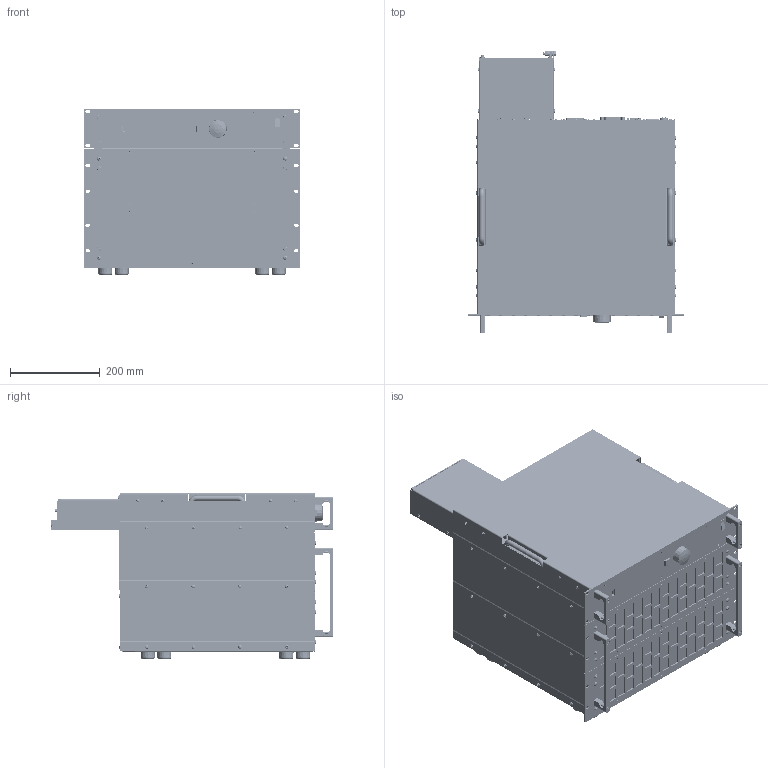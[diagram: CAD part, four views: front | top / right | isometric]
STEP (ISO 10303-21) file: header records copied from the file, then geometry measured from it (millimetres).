
FILE_DESCRIPTION(('STEP AP214'),'1');
FILE_NAME('QL_M23_19Z_8HE_FKS25_10_SM10_3D_01.step','2022-03-16T09:34:45',(' '),(' '),'Spatial InterOp 3D',' ',' ');
FILE_SCHEMA(('AUTOMOTIVE_DESIGN { 1 0 10303 214 1 1 1 1 }'));
Length unit declared in the file: millimetre
Products named in the file (55): DIN 7985-AxM4 X 0.7x5; 3HE_Leistungsteil_mit_Gummifüssen_3D_01; *U404; *U405; *U406; *U415; AutoCreatedBlock_4631; 3HE_Leistungsteil_3D_01; *U519; *U520; *U521; AutoCreatedBlock_4657; DIN 966-A; Steuereinheit_CU25X10_mit_BG452_3D_01; 2121_Steuerteil_modular_Seitenteil_links_3D_02; 2122_Steuerteil_modular_Seitenteil_rechts_3D_02; A$C5EF2ED09; 3xM2.5_5x5x12; AutoCreatedBlock_4677; A$C6092449D; Frontplatte_5HE_Steuerteil_mit_Einbauten_3D; A$C60925E47; A$C60A76697; 2246_QL Rückwand Steuerteil 5HE_mit_Einbauten_3D_01; *U305; *U306; *U307; AutoCreatedBlock_4689; 2257_QL_IO Panel Standard_3D_01; 2084_IO-Port Abdeckung_3D_01; *U614; *U615; *U616; *U617; *U618; *U619; Eingansschienen_CU25X10_3D; *U620; SAB_QL-5; *U285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
Assembly tree (186 placements, depth 4):
  (unnamed)
    DIN 7985-AxM4 X 0.7x5  x4
    3HE_Leistungsteil_mit_Gummifüssen_3D_01
      *U404  x10
      *U405  x6
      *U406  x6
      *U415  x6
      AutoCreatedBlock_4631
    3HE_Leistungsteil_3D_01
      *U519  x14
      *U520  x6
      *U521  x6
      AutoCreatedBlock_4657
    DIN 966-A  x5
    Steuereinheit_CU25X10_mit_BG452_3D_01
      2121_Steuerteil_modular_Seitenteil_links_3D_02
      2122_Steuerteil_modular_Seitenteil_rechts_3D_02
      A$C5EF2ED09
        3xM2.5_5x5x12  x2
        AutoCreatedBlock_4677
      A$C6092449D
      Frontplatte_5HE_Steuerteil_mit_Einbauten_3D
      A$C60925E47
      A$C60A76697
      2246_QL Rückwand Steuerteil 5HE_mit_Einbauten_3D_01
        *U305
        *U306  x2
        *U307  x3
        AutoCreatedBlock_4689
      2257_QL_IO Panel Standard_3D_01
      2084_IO-Port Abdeckung_3D_01  x2
      *U614  x17
      *U615  x9
      *U616  x2
      *U617  x4
      *U618  x2
      *U619  x2
      Eingansschienen_CU25X10_3D
      *U620  x26
      SAB_QL-5
        *U285
        *U286  x2
        *U287  x3
        *U288  x2
        *U289  x8
        *U290  x4
        *U291  x2
        *U292  x2
        AutoCreatedBlock_4717
      *U629  x2
      BG452_mit_MT1955_3D_01
        *U564  x2
        AutoCreatedBlock_4737
      AutoCreatedBlock_4667
    AutoCreatedBlock_4625
Bounding box: 482.61 x 630.75 x 371.22 mm (x, y, z)
Volume: 32003067.4 mm3; surface area: 4887238.5 mm2
Topology: 461 solids, 903 shells, 29854 faces, 74671 edges, 46844 vertices
Faces by surface type: plane 12521, cone 11791, cylinder 4520, torus 443, sphere 294, bspline 269, extrusion 16
Entity records: 902631 total; most frequent: CARTESIAN_POINT 161931, DIRECTION 119764, ORIENTED_EDGE 111170, EDGE_CURVE 57002, AXIS2_PLACEMENT_3D 41518, VECTOR 36728, LINE 36712, VERTEX_POINT 36022
